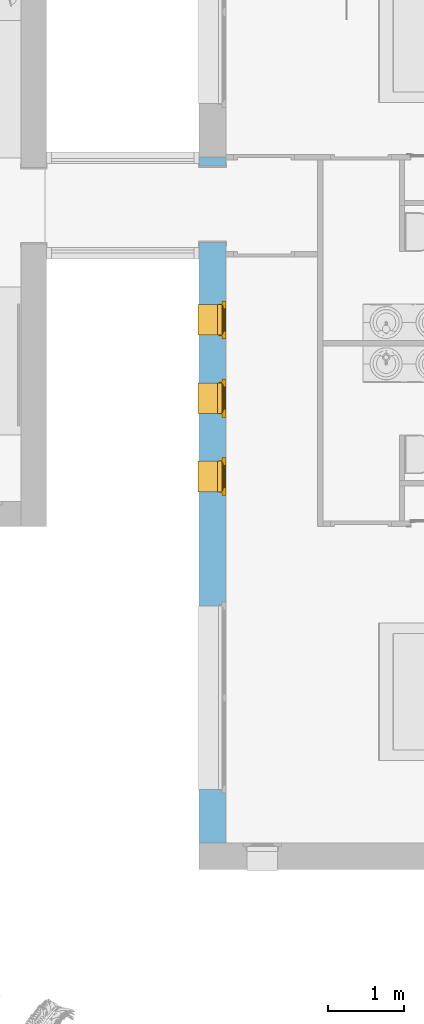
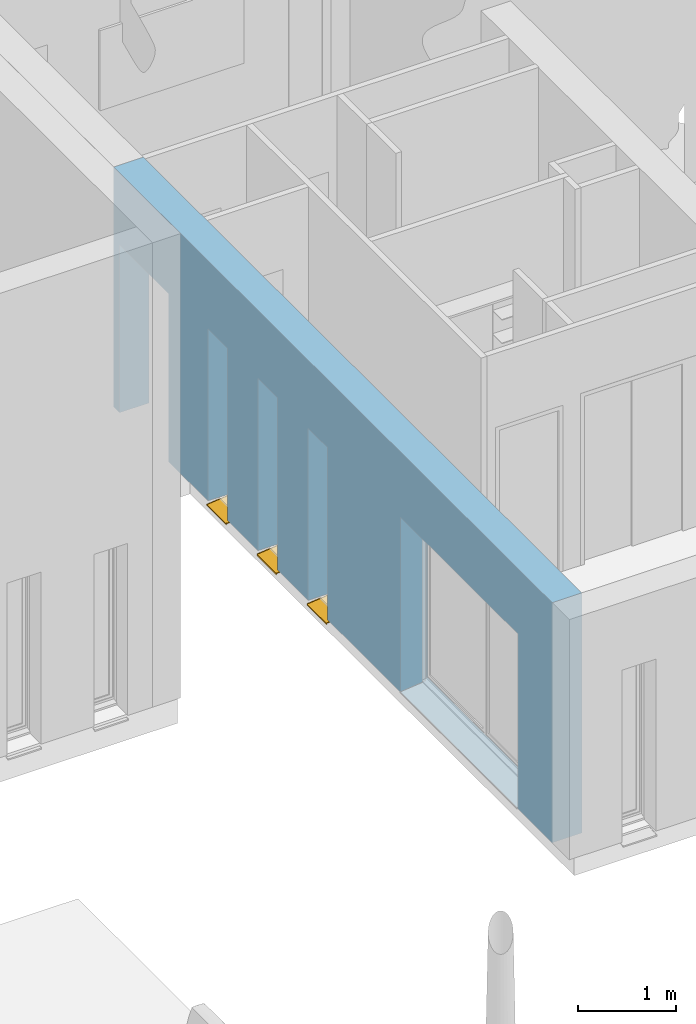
# One storey, part 8 of 40: 3 windows, 5 openings, plus 1 element that does not belong to this part.
"""IFC2X3 building model written with IfcOpenShell, lengths in metres."""

from ifc_helpers import new_model, entity, si_unit, converted_unit, derived_unit, direction, frame, frame_2d, origin, place, context, subcontext, project, spatial, rectangle, extrude, faceted_brep, source, transform, mapped, material, material_list, layer, layer_set, layer_usage, type_object, type_shapes, element, fill, save


model = new_model("IFC2X3")

# Units and contexts
model_context = context("Model", 3, precision=1e-05, world=origin(), true_north=direction((6.12303176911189e-17, 1.0)))
body_context = subcontext(model_context, "Body", "Model", "MODEL_VIEW")
ifc_project = project(units=[si_unit("LENGTHUNIT", "METRE"), si_unit("AREAUNIT", "SQUARE_METRE"), si_unit("VOLUMEUNIT", "CUBIC_METRE"), converted_unit("PLANEANGLEUNIT", "DEGREE", entity("IfcRatioMeasure", 0.0174532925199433), si_unit("PLANEANGLEUNIT", "RADIAN"), dimensions=[0, 0, 0, 0, 0, 0, 0]), si_unit("MASSUNIT", "GRAM", prefix="KILO"), derived_unit("MASSDENSITYUNIT", [(si_unit("MASSUNIT", "GRAM", prefix="KILO"), 1), (si_unit("LENGTHUNIT", "METRE"), -3)]), si_unit("TIMEUNIT", "SECOND"), si_unit("FREQUENCYUNIT", "HERTZ"), si_unit("THERMODYNAMICTEMPERATUREUNIT", "DEGREE_CELSIUS"), derived_unit("THERMALTRANSMITTANCEUNIT", [(si_unit("MASSUNIT", "GRAM", prefix="KILO"), 1), (si_unit("THERMODYNAMICTEMPERATUREUNIT", "KELVIN"), -1), (si_unit("TIMEUNIT", "SECOND"), -3)]), derived_unit("VOLUMETRICFLOWRATEUNIT", [(si_unit("LENGTHUNIT", "METRE"), 3), (si_unit("TIMEUNIT", "SECOND"), -1)]), si_unit("ELECTRICCURRENTUNIT", "AMPERE"), si_unit("ELECTRICVOLTAGEUNIT", "VOLT"), si_unit("POWERUNIT", "WATT"), si_unit("FORCEUNIT", "NEWTON", prefix="KILO"), si_unit("ILLUMINANCEUNIT", "LUX"), si_unit("LUMINOUSFLUXUNIT", "LUMEN"), si_unit("LUMINOUSINTENSITYUNIT", "CANDELA"), derived_unit("USERDEFINED", [(si_unit("MASSUNIT", "GRAM", prefix="KILO"), -1), (si_unit("LENGTHUNIT", "METRE"), -2), (si_unit("TIMEUNIT", "SECOND"), 3), (si_unit("LUMINOUSFLUXUNIT", "LUMEN"), 1)]), derived_unit("LINEARVELOCITYUNIT", [(si_unit("LENGTHUNIT", "METRE"), 1), (si_unit("TIMEUNIT", "SECOND"), -1)]), si_unit("PRESSUREUNIT", "PASCAL"), derived_unit("USERDEFINED", [(si_unit("LENGTHUNIT", "METRE"), -2), (si_unit("MASSUNIT", "GRAM", prefix="KILO"), 1), (si_unit("TIMEUNIT", "SECOND"), -2)])], contexts=[model_context])

# Site, building, storey
site_placement = place(None, origin())
site = spatial("IfcSite", under=ifc_project, at=site_placement, Name="Surface", CompositionType="ELEMENT")
building_placement = place(site_placement, origin())
building = spatial("IfcBuilding", under=site, at=building_placement, CompositionType="ELEMENT")
storey_placement = place(building_placement, origin())
storey = spatial("IfcBuildingStorey", under=building, at=storey_placement, Name="RDC", CompositionType="ELEMENT", Elevation=-1.0941605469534e-13)

# Wall, openings, windows
ifc_material_1 = material(Name="Bardage bois")
ifc_layer_1 = layer(ifc_material_1, 0.01)
ifc_material_2 = material(Name="Maçonnerie - Isolant")
ifc_layer_2 = layer(ifc_material_2, 0.12)
ifc_material_3 = material(Name="Blocs béton manufacturés")
ifc_layer_3 = layer(ifc_material_3, 0.2)
ifc_material_4 = material(Name="Par défaut")
ifc_layer_4 = layer(ifc_material_4, 0.01)
ifc_material_5 = material(Name="Plâtre")
ifc_layer_5 = layer(ifc_material_5, 0.01)
ifc_layer_set = layer_set([ifc_layer_1, ifc_layer_2, ifc_layer_3, ifc_layer_4, ifc_layer_5], Name="Mur de base:M8 Ext. Bois 2 + Isolant 12 +  BBMC 20 + vide 1 + ba13")
ifc_layer_usage = layer_usage(ifc_layer_set, "AXIS2", "NEGATIVE", 0.175)
wall_type = type_object("IfcWallType", Name="Mur de base:M8 Ext. Bois 2 + Isolant 12 +  BBMC 20 + vide 1 + ba13", PredefinedType="STANDARD", material=ifc_layer_set)
wall_placement = place(storey_placement, frame((11.9725111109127, -4.66298932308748, 0.0), z_axis=(0.0, 0.0, 1.0), x_axis=(0.0, 1.0, 0.0)))
wall = element("IfcWallStandardCase", 1, at=wall_placement, inside=storey, type_object=wall_type, material=ifc_layer_usage, Name="Mur de base:M8 Ext. Bois 2 + Isolant 12 +  BBMC 20 + vide 1 + ba13", ObjectType="Mur de base:M8 Ext. Bois 2 + Isolant 12 +  BBMC 20 + vide 1 + ba13", context=body_context, shape_type="SweptSolid", body=[
    extrude(rectangle(XDim=8.97499999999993, YDim=0.349999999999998, at=frame_2d((4.48749999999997, -1.94289029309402e-16), x_axis=(-1.0, 0.0))), origin(), (0.0, 0.0, 1.0), 2.99999999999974),
])
opening_1_placement = place(wall_placement, frame((7.85749999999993, -0.175000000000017, 0.0)))
element("IfcOpeningElement", 2, at=opening_1_placement, cuts=wall, Name="Ouverture en rectangle:Ouverture en rectangle:1", ObjectType="Opening", context=body_context, shape_type="SweptSolid", body=[
    extrude(rectangle(XDim=2.09999999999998, YDim=1.0, at=frame_2d((1.04999999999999, 0.5), x_axis=(1.0, 0.0))), frame((0.0, 0.0, 0.0), z_axis=(0.0, 1.0, 0.0), x_axis=(0.0, 0.0, 1.0)), (0.0, 0.0, 1.0), 0.35),
])
opening_2_placement = place(wall_placement, frame((6.59499999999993, 0.499999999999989, -0.0775370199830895), z_axis=(0.0, 0.0, 1.0), x_axis=(0.0, -1.0, 0.0)))
opening_2 = element("IfcOpeningElement", 3, at=opening_2_placement, cuts=wall, Name="Mur de base:M8 Ext. Bois 2 + Isolant 12 +  BBMC 20 + vide 1 + ba13", ObjectType="Opening", context=body_context, shape_type="Brep", body=[
    faceted_brep([(0.595000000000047, 0.0499999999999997, 0.077537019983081), (0.574999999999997, 0.0499999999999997, 0.077537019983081), (0.574999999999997, 0.0499999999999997, 2.22753701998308), (0.0, 0.0500000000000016, 2.22753701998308), (0.0, 0.0500000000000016, 0.0), (0.595000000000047, 0.0499999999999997, 0.062537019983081), (1.0, 0.449999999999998, 0.077537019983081), (0.675000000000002, 0.45, 0.077537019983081), (0.675000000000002, 0.45, 2.22753701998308), (1.0, 0.449999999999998, 2.22753701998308), (1.0, 0.0499999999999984, 0.077537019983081), (0.675, 0.0499999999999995, 0.077537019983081), (0.675, 0.0, 0.077537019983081), (0.625000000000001, 0.0, 0.077537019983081), (0.625000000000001, 0.0399999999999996, 0.077537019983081), (0.574999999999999, 0.0399999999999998, 0.077537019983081), (0.595000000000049, 0.45, 0.077537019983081), (0.574999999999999, 0.45, 0.0775370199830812), (0.574999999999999, 0.46, 0.077537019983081), (0.625000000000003, 0.46, 0.077537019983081), (0.625000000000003, 0.499999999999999, 0.077537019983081), (0.675000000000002, 0.499999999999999, 0.077537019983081), (1.0, 0.0499999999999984, 2.22753701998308), (0.574999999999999, 0.45, 2.22753701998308), (0.0, 0.450000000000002, 2.22753701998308), (0.0, 0.450000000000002, 0.0), (0.595000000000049, 0.45, 0.062537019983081), (0.675, 0.0, 2.27753701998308), (0.625000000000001, 0.0, 2.27753701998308), (0.625000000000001, 0.499999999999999, 2.27753701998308), (0.625000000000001, 0.46, 2.23753701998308), (0.625000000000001, 0.0399999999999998, 2.23753701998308), (0.574999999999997, 0.0399999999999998, 2.23753701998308), (0.574999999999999, 0.46, 2.23753701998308), (0.675, 0.0499999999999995, 2.22753701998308), (0.675, 0.499999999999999, 2.27753701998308)], [[[0, 1, 2, 3, 4, 5]], [[6, 7, 8, 9]], [[10, 11, 12, 13, 14, 15, 1, 0, 16, 17, 18, 19, 20, 21, 7, 6]], [[10, 6, 9, 22]], [[3, 2, 23, 24]], [[3, 24, 25, 4]], [[4, 25, 26, 5]], [[5, 26, 16, 0]], [[12, 27, 28, 13]], [[13, 28, 29, 20, 19, 30, 31, 14]], [[14, 31, 32, 15]], [[15, 32, 33, 18, 17, 23, 2, 1]], [[11, 34, 8, 7, 21, 35, 27, 12]], [[27, 35, 29, 28]], [[30, 33, 32, 31]], [[29, 35, 21, 20]], [[19, 18, 33, 30]], [[9, 8, 34, 22]], [[24, 23, 17, 16, 26, 25]], [[22, 34, 11, 10]]]),
])
opening_3_placement = place(wall_placement, frame((5.56999999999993, 0.499999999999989, -0.0775370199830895), z_axis=(0.0, 0.0, 1.0), x_axis=(0.0, -1.0, 0.0)))
opening_3 = element("IfcOpeningElement", 4, at=opening_3_placement, cuts=wall, Name="Mur de base:M8 Ext. Bois 2 + Isolant 12 +  BBMC 20 + vide 1 + ba13", ObjectType="Opening", context=body_context, shape_type="Brep", body=[
    faceted_brep([(0.595000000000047, 0.0499999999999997, 0.077537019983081), (0.574999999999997, 0.0499999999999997, 0.077537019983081), (0.574999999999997, 0.0499999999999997, 2.22753701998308), (0.0, 0.0500000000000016, 2.22753701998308), (0.0, 0.0500000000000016, 0.0), (0.595000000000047, 0.0499999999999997, 0.062537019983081), (1.0, 0.449999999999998, 0.077537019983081), (0.675000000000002, 0.45, 0.077537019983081), (0.675000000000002, 0.45, 2.22753701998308), (1.0, 0.449999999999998, 2.22753701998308), (1.0, 0.0499999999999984, 0.077537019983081), (0.675, 0.0499999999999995, 0.077537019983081), (0.675, 0.0, 0.077537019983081), (0.625000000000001, 0.0, 0.077537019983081), (0.625000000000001, 0.0399999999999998, 0.077537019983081), (0.574999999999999, 0.04, 0.077537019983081), (0.595000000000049, 0.45, 0.077537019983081), (0.574999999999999, 0.45, 0.0775370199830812), (0.574999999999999, 0.46, 0.077537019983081), (0.625000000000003, 0.46, 0.077537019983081), (0.625000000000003, 0.499999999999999, 0.077537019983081), (0.675000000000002, 0.499999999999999, 0.077537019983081), (1.0, 0.0499999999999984, 2.22753701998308), (0.574999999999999, 0.45, 2.22753701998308), (0.0, 0.450000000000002, 2.22753701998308), (0.0, 0.450000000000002, 0.0), (0.595000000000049, 0.45, 0.062537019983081), (0.675, 0.0, 2.27753701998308), (0.625000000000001, 0.0, 2.27753701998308), (0.625000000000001, 0.499999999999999, 2.27753701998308), (0.625000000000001, 0.46, 2.23753701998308), (0.625000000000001, 0.04, 2.23753701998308), (0.574999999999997, 0.0399999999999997, 2.23753701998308), (0.574999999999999, 0.46, 2.23753701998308), (0.675, 0.0499999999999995, 2.22753701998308), (0.675, 0.499999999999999, 2.27753701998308)], [[[0, 1, 2, 3, 4, 5]], [[6, 7, 8, 9]], [[10, 11, 12, 13, 14, 15, 1, 0, 16, 17, 18, 19, 20, 21, 7, 6]], [[10, 6, 9, 22]], [[3, 2, 23, 24]], [[3, 24, 25, 4]], [[4, 25, 26, 5]], [[5, 26, 16, 0]], [[12, 27, 28, 13]], [[13, 28, 29, 20, 19, 30, 31, 14]], [[14, 31, 32, 15]], [[15, 32, 33, 18, 17, 23, 2, 1]], [[11, 34, 8, 7, 21, 35, 27, 12]], [[27, 35, 29, 28]], [[30, 33, 32, 31]], [[29, 35, 21, 20]], [[19, 18, 33, 30]], [[9, 8, 34, 22]], [[24, 23, 17, 16, 26, 25]], [[22, 34, 11, 10]]]),
])
opening_4_placement = place(wall_placement, frame((4.54499999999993, 0.499999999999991, -0.0775370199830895), z_axis=(0.0, 0.0, 1.0), x_axis=(0.0, -1.0, 0.0)))
opening_4 = element("IfcOpeningElement", 5, at=opening_4_placement, cuts=wall, Name="Mur de base:M8 Ext. Bois 2 + Isolant 12 +  BBMC 20 + vide 1 + ba13", ObjectType="Opening", context=body_context, shape_type="Brep", body=[
    faceted_brep([(0.595000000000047, 0.0499999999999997, 0.077537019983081), (0.574999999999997, 0.0499999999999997, 0.077537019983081), (0.574999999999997, 0.0499999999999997, 2.22753701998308), (0.0, 0.0500000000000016, 2.22753701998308), (0.0, 0.0500000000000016, 0.0), (0.595000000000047, 0.0499999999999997, 0.062537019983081), (1.0, 0.449999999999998, 0.077537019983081), (0.675000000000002, 0.45, 0.077537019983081), (0.675000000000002, 0.45, 2.22753701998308), (1.0, 0.449999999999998, 2.22753701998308), (1.0, 0.0499999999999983, 0.077537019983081), (0.675, 0.0499999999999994, 0.077537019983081), (0.675, 0.0, 0.077537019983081), (0.625000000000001, 0.0, 0.077537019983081), (0.625000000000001, 0.0399999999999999, 0.077537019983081), (0.574999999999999, 0.04, 0.077537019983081), (0.595000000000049, 0.45, 0.077537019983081), (0.574999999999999, 0.45, 0.0775370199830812), (0.574999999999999, 0.46, 0.077537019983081), (0.625000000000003, 0.46, 0.077537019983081), (0.625000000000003, 0.499999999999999, 0.077537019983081), (0.675000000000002, 0.499999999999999, 0.077537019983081), (1.0, 0.0499999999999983, 2.22753701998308), (0.574999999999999, 0.45, 2.22753701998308), (0.0, 0.450000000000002, 2.22753701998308), (0.0, 0.450000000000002, 0.0), (0.595000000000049, 0.45, 0.062537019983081), (0.675, 0.0, 2.27753701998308), (0.625000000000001, 0.0, 2.27753701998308), (0.625000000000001, 0.499999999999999, 2.27753701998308), (0.625000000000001, 0.46, 2.23753701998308), (0.625000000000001, 0.04, 2.23753701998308), (0.574999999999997, 0.0399999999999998, 2.23753701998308), (0.574999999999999, 0.46, 2.23753701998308), (0.675, 0.0499999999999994, 2.22753701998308), (0.675, 0.499999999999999, 2.27753701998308)], [[[0, 1, 2, 3, 4, 5]], [[6, 7, 8, 9]], [[10, 11, 12, 13, 14, 15, 1, 0, 16, 17, 18, 19, 20, 21, 7, 6]], [[10, 6, 9, 22]], [[3, 2, 23, 24]], [[3, 24, 25, 4]], [[4, 25, 26, 5]], [[5, 26, 16, 0]], [[12, 27, 28, 13]], [[13, 28, 29, 20, 19, 30, 31, 14]], [[14, 31, 32, 15]], [[15, 32, 33, 18, 17, 23, 2, 1]], [[11, 34, 8, 7, 21, 35, 27, 12]], [[27, 35, 29, 28]], [[30, 33, 32, 31]], [[29, 35, 21, 20]], [[19, 18, 33, 30]], [[9, 8, 34, 22]], [[24, 23, 17, 16, 26, 25]], [[22, 34, 11, 10]]]),
])
opening_5_placement = place(wall_placement, frame((0.650000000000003, 0.499999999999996, 0.0), z_axis=(0.0, 0.0, 1.0), x_axis=(0.0, -1.0, 0.0)))
element("IfcOpeningElement", 6, at=opening_5_placement, cuts=wall, Name="Mur de base:M8 Ext. Bois 2 + Isolant 12 +  BBMC 20 + vide 1 + ba13", ObjectType="Opening", context=body_context, shape_type="Brep", body=[
    faceted_brep([(0.594999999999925, 2.45, 0.0350000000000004), (0.261997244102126, 2.45, 0.0), (0.0, 2.45, 0.0), (0.0, 2.45, 2.185), (0.575000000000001, 2.45, 2.185), (0.575000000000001, 2.45, 0.0350000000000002), (1.0, 0.0500000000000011, 0.0350000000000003), (1.0, 0.0500000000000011, 2.185), (0.674999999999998, 0.0500000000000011, 2.185), (0.674999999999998, 0.0500000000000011, 0.0350000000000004), (1.0, 2.45, 0.0350000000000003), (0.674999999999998, 0.0, 0.0350000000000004), (0.624999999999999, 0.0, 0.0350000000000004), (0.624999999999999, 0.0399999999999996, 0.0350000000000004), (0.574999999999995, 0.0400000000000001, 0.0350000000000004), (0.574999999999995, 0.05, 0.0350000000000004), (0.594999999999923, 0.0500000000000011, 0.0350000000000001), (0.574999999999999, 2.46, 0.0350000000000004), (0.625000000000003, 2.46, 0.0350000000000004), (0.625000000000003, 2.5, 0.0350000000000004), (0.675000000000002, 2.5, 0.0350000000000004), (0.675000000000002, 2.45, 0.0350000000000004), (1.0, 2.45, 2.185), (0.675000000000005, 2.45, 2.185), (0.0, 0.0500000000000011, 0.0), (0.0, 0.0500000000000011, 2.185), (0.261997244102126, 0.0500000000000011, 0.0), (0.625000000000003, 2.5, 2.235), (0.675000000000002, 2.5, 2.235), (0.625000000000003, 2.46, 2.195), (0.624999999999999, 0.0400000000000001, 2.195), (0.624999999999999, 0.0, 2.235), (0.575000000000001, 2.46, 2.195), (0.574999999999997, 0.0500000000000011, 2.185), (0.574999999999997, 0.0400000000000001, 2.195), (0.674999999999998, 0.0, 2.235)], [[[0, 1, 2, 3, 4, 5]], [[6, 7, 8, 9]], [[10, 6, 9, 11, 12, 13, 14, 15, 16, 0, 5, 17, 18, 19, 20, 21]], [[10, 22, 7, 6]], [[7, 22, 23, 8]], [[3, 2, 24, 25]], [[2, 1, 26, 24]], [[1, 0, 16, 26]], [[20, 19, 27, 28]], [[19, 18, 29, 30, 13, 12, 31, 27]], [[18, 17, 32, 29]], [[17, 5, 4, 33, 15, 14, 34, 32]], [[21, 20, 28, 35, 11, 9, 8, 23]], [[28, 27, 31, 35]], [[30, 29, 32, 34]], [[31, 12, 11, 35]], [[13, 30, 34, 14]], [[3, 25, 33, 4]], [[25, 24, 26, 16, 15, 33]], [[22, 10, 21, 23]]]),
])
ifc_material_6 = material(Name="Fenêtre - Appui")
ifc_material_7 = material(Name="Fenêtre - Vitrage")
ifc_material_8 = material(Name="Fenêtre - Cadre")
ifc_material_list_1 = material_list([ifc_material_6, ifc_material_7, ifc_material_8])
ifc_material_list_2 = material_list([ifc_material_6, ifc_material_7, ifc_material_8])
window_style = type_object("IfcWindowStyle", Name="0.40m x2.15m", ConstructionType="NOTDEFINED", OperationType="SINGLE_PANEL", ParameterTakesPrecedence=False, Sizeable=False, material=ifc_material_list_2)
shared_shape = source(origin(), body_context, "Body", "Brep", [
    faceted_brep([(0.45, -0.309999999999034, 0.0378375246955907), (0.45, -0.589999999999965, 0.0672667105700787), (0.45, -0.589999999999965, 0.0775370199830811), (0.45, -0.594999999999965, 0.0775370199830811), (0.45, -0.594999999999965, 0.0625370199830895), (0.45, -0.314999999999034, 0.0331078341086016), (0.45, -0.314999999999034, 0.0228073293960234), (0.45, -0.309999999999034, 0.022281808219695), (0.0499999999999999, -0.309999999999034, 0.0378375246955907), (0.0499999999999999, -0.309999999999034, 0.022281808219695), (0.0499999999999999, -0.314999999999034, 0.0228073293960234), (0.0499999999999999, -0.314999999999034, 0.0331078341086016), (0.0499999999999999, -0.594999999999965, 0.0625370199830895), (0.0499999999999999, -0.594999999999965, 0.0775370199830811), (0.0499999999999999, -0.589999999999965, 0.0775370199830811), (0.0499999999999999, -0.589999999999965, 0.0672667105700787)], [[[0, 1, 2, 3, 4, 5, 6, 7]], [[8, 9, 10, 11, 12, 13, 14, 15]], [[1, 0, 8, 15]], [[2, 1, 15, 14]], [[3, 2, 14, 13]], [[4, 3, 13, 12]], [[5, 4, 12, 11]], [[6, 5, 11, 10]], [[7, 6, 10, 9]], [[0, 7, 9, 8]]]),
    faceted_brep([(0.0500000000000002, -0.309999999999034, 0.0392634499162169), (0.0500000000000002, -0.309999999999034, 0.0378375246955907), (0.0499999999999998, -0.589999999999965, 0.0672667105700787), (0.0499999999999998, -0.589999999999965, 0.0722942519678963), (0.0500000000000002, -0.313581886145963, 0.04324153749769), (0.0500000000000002, -0.311027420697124, 0.0419399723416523), (0.0549999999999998, -0.589999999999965, 0.0722942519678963), (0.0549999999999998, -0.589999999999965, 0.0672667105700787), (0.0550000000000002, -0.309999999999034, 0.0378375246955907), (0.0550000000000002, -0.309999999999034, 0.0392634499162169), (0.0550000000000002, -0.311027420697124, 0.0419399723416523), (0.0550000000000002, -0.313581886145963, 0.04324153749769)], [[[0, 1, 2, 3, 4, 5]], [[6, 7, 8, 9, 10, 11]], [[2, 1, 8, 7]], [[3, 2, 7, 6]], [[4, 3, 6, 11]], [[4, 11, 10, 5]], [[10, 9, 0, 5]], [[1, 0, 9, 8]]]),
    faceted_brep([(0.445, -0.309999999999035, 0.0392634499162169), (0.445, -0.309999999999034, 0.0378375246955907), (0.445, -0.589999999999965, 0.0672667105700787), (0.445, -0.589999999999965, 0.0722942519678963), (0.445, -0.313581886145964, 0.04324153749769), (0.445, -0.311027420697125, 0.0419399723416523), (0.45, -0.589999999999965, 0.0722942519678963), (0.45, -0.589999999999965, 0.0672667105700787), (0.45, -0.309999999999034, 0.0378375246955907), (0.45, -0.309999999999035, 0.0392634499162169), (0.45, -0.311027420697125, 0.0419399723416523), (0.45, -0.313581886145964, 0.04324153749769)], [[[0, 1, 2, 3, 4, 5]], [[6, 7, 8, 9, 10, 11]], [[2, 1, 8, 7]], [[3, 2, 7, 6]], [[4, 3, 6, 11]], [[4, 11, 10, 5]], [[10, 9, 0, 5]], [[1, 0, 9, 8]]]),
    faceted_brep([(0.0999999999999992, -0.649000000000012, 0.17753701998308), (0.0999999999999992, -0.649000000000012, 2.17753701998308), (0.4, -0.649000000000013, 2.17753701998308), (0.4, -0.649000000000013, 0.17753701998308), (0.0999999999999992, -0.661000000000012, 0.17753701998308), (0.0999999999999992, -0.661000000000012, 2.17753701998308), (0.4, -0.661000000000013, 2.17753701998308), (0.4, -0.661000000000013, 0.17753701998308)], [[[0, 1, 2, 3]], [[1, 0, 4, 5]], [[3, 2, 6, 7]], [[0, 3, 7, 4]], [[4, 7, 6, 5]], [[2, 1, 5, 6]]]),
    faceted_brep([(0.0999999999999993, -0.635000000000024, 2.17753701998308), (0.0999999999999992, -0.675000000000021, 2.17753701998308), (0.0999999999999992, -0.675000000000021, 0.177537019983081), (0.0999999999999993, -0.635000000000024, 0.17753701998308), (0.4, -0.675000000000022, 0.17753701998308), (0.4, -0.635000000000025, 0.17753701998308), (0.399999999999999, -0.675000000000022, 2.17753701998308), (0.449999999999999, -0.675000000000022, 0.127537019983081), (0.449999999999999, -0.675000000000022, 2.22753701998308), (0.0499999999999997, -0.675000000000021, 2.22753701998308), (0.0499999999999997, -0.675000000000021, 0.127537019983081), (0.4, -0.635000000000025, 2.17753701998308), (0.049999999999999, -0.635000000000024, 0.12753701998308), (0.0499999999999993, -0.635000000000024, 2.22753701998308), (0.45, -0.635000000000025, 2.22753701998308), (0.45, -0.635000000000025, 0.127537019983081)], [[[0, 1, 2, 3]], [[3, 2, 4, 5]], [[2, 1, 6, 4], [7, 8, 9, 10]], [[5, 4, 6, 11]], [[5, 11, 0, 3], [12, 13, 14, 15]], [[9, 13, 12, 10]], [[10, 12, 15, 7]], [[7, 15, 14, 8]], [[11, 6, 1, 0]], [[8, 14, 13, 9]]], outer=[[True], [True], [False, True], [True], [False, True], [True], [True], [True], [True], [True]]),
    faceted_brep([(0.0, -0.675, 0.0775370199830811), (0.0, -0.625000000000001, 0.0775370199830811), (0.0499999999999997, -0.625000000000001, 0.0775370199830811), (0.0499999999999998, -0.575000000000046, 0.0775370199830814), (0.45, -0.575000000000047, 0.0775370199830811), (0.45, -0.625000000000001, 0.0775370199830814), (0.499999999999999, -0.625000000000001, 0.0775370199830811), (0.499999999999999, -0.675, 0.0775370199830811), (0.0, -0.675, 2.27753701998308), (0.0, -0.625000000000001, 2.27753701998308), (0.499999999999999, -0.625000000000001, 2.27753701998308), (0.45, -0.625000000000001, 0.116913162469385), (0.0499999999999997, -0.625000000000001, 0.11691316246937), (0.0649999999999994, -0.625000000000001, 2.21253701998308), (0.0649999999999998, -0.625000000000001, 0.142537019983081), (0.435, -0.625000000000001, 0.142537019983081), (0.435, -0.625000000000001, 2.21253701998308), (0.0499999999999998, -0.565000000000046, 0.100836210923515), (0.0499999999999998, -0.565000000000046, 0.0725370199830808), (0.0499999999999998, -0.575000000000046, 0.0725370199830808), (0.45, -0.575000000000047, 0.0725370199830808), (0.45, -0.565000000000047, 0.0725370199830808), (0.45, -0.565000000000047, 0.100836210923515), (0.499999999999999, -0.675, 2.27753701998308), (0.45, -0.675, 2.22753701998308), (0.45, -0.675, 0.127537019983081), (0.0499999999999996, -0.675, 0.127537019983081), (0.0499999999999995, -0.675, 2.22753701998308), (0.0649999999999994, -0.635000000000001, 2.21253701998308), (0.0649999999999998, -0.635000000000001, 0.142537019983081), (0.435, -0.635000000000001, 0.142537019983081), (0.435, -0.635000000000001, 2.21253701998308), (0.45, -0.635000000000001, 2.22753701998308), (0.0499999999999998, -0.635000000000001, 2.22753701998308), (0.0499999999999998, -0.635000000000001, 0.127537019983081), (0.45, -0.635000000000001, 0.127537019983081)], [[[0, 1, 2, 3, 4, 5, 6, 7]], [[1, 0, 8, 9]], [[1, 9, 10, 6, 5, 11, 12, 2], [13, 14, 15, 16]], [[12, 17, 18, 19, 3, 2]], [[3, 19, 20, 4]], [[4, 20, 21, 22, 11, 5]], [[6, 10, 23, 7]], [[0, 7, 23, 8], [24, 25, 26, 27]], [[13, 28, 29, 14]], [[29, 30, 15, 14]], [[31, 16, 15, 30]], [[17, 12, 11, 22]], [[28, 31, 30, 29], [32, 33, 34, 35]], [[34, 33, 27, 26]], [[26, 25, 35, 34]], [[24, 32, 35, 25]], [[18, 17, 22, 21]], [[19, 18, 21, 20]], [[13, 16, 31, 28]], [[10, 9, 8, 23]], [[33, 32, 24, 27]]], outer=[[True], [True], [True, False], [True], [True], [True], [True], [True, False], [True], [True], [True], [True], [False, True], [True], [True], [True], [True], [True], [True], [True], [True]]),
    faceted_brep([(0.0499999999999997, -0.574999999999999, 0.0775370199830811), (0.0499999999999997, -0.625000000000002, 0.0775370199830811), (0.0399999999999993, -0.625000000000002, 0.0775370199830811), (0.0399999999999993, -0.574999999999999, 0.0775370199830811), (0.0499999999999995, -0.574999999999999, 2.22753701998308), (0.0499999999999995, -0.625000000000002, 2.22753701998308), (0.45, -0.625000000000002, 2.22753701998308), (0.45, -0.625000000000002, 0.0775370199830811), (0.46, -0.625000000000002, 0.0775370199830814), (0.46, -0.625000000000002, 2.23753701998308), (0.0399999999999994, -0.625000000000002, 2.23753701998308), (0.0399999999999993, -0.574999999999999, 2.23753701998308), (0.46, -0.574999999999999, 2.23753701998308), (0.46, -0.574999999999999, 0.0775370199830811), (0.45, -0.574999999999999, 0.0775370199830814), (0.45, -0.574999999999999, 2.22753701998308)], [[[0, 1, 2, 3]], [[1, 0, 4, 5]], [[2, 1, 5, 6, 7, 8, 9, 10]], [[3, 2, 10, 11]], [[0, 3, 11, 12, 13, 14, 15, 4]], [[6, 15, 14, 7]], [[14, 13, 8, 7]], [[12, 9, 8, 13]], [[5, 4, 15, 6]], [[11, 10, 9, 12]]]),
])
type_shapes(window_style, [shared_shape])
window_1_placement = place(opening_2_placement, frame((0.0, 0.0, 0.0), z_axis=(0.0, 0.0, 1.0), x_axis=(0.0, 1.0, 0.0)))
window_1 = element("IfcWindow", 7, at=window_1_placement, inside=storey, type_object=window_style, material=ifc_material_list_1, Name="1 Vantail - Droit:0.40m x2.15m", ObjectType="0.40m x2.15m", OverallHeight=2.28, OverallWidth=0.5, context=body_context, shape_type="MappedRepresentation", body=[
    mapped(shared_shape, transform((0.0, 0.0, 0.0), scale=1.0)),
])
fill(opening_2, window_1)
ifc_material_list_3 = material_list([ifc_material_6, ifc_material_7, ifc_material_8])
window_2_placement = place(opening_3_placement, frame((0.0, 0.0, 0.0), z_axis=(0.0, 0.0, 1.0), x_axis=(0.0, 1.0, 0.0)))
window_2 = element("IfcWindow", 8, at=window_2_placement, inside=storey, type_object=window_style, material=ifc_material_list_3, Name="1 Vantail - Droit:0.40m x2.15m", ObjectType="0.40m x2.15m", OverallHeight=2.28, OverallWidth=0.5, context=body_context, shape_type="MappedRepresentation", body=[
    mapped(shared_shape, transform((0.0, 0.0, 0.0), scale=1.0)),
])
fill(opening_3, window_2)
ifc_material_list_4 = material_list([ifc_material_6, ifc_material_7, ifc_material_8])
window_3_placement = place(opening_4_placement, frame((0.0, 0.0, 0.0), z_axis=(0.0, 0.0, 1.0), x_axis=(0.0, 1.0, 0.0)))
window_3 = element("IfcWindow", 9, at=window_3_placement, inside=storey, type_object=window_style, material=ifc_material_list_4, Name="1 Vantail - Droit:0.40m x2.15m", ObjectType="0.40m x2.15m", OverallHeight=2.28, OverallWidth=0.5, context=body_context, shape_type="MappedRepresentation", body=[
    mapped(shared_shape, transform((0.0, 0.0, 0.0), scale=1.0)),
])
fill(opening_4, window_3)

save(model, "model.ifc")
